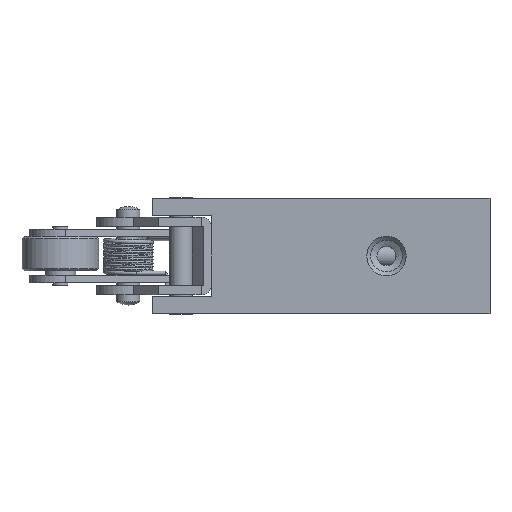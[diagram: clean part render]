
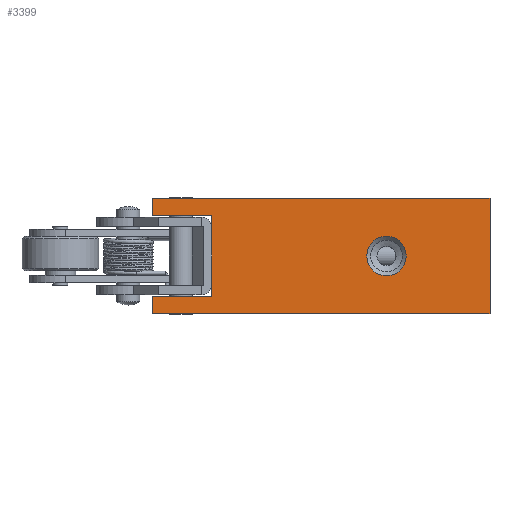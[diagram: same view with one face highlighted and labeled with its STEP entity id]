
A CAD part, front view. The second image highlights one B-rep face of the part: STEP entity #3399.
In plain terms, the highlighted planar face has unit normal (0, -1, 0).
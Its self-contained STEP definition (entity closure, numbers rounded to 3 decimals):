
#102=LINE('',#9345,#307);
#109=LINE('',#9361,#314);
#112=LINE('',#9368,#317);
#126=LINE('',#9590,#331);
#127=LINE('',#9592,#332);
#128=LINE('',#9594,#333);
#129=LINE('',#9596,#334);
#130=LINE('',#9598,#335);
#307=VECTOR('',#5197,1000.);
#314=VECTOR('',#5208,1000.);
#317=VECTOR('',#5215,1000.);
#331=VECTOR('',#5281,1000.);
#332=VECTOR('',#5282,1000.);
#333=VECTOR('',#5283,1000.);
#334=VECTOR('',#5284,1000.);
#335=VECTOR('',#5285,1000.);
#632=PLANE('',#4667);
#1157=ORIENTED_EDGE('',*,*,#1893,.T.);
#1158=ORIENTED_EDGE('',*,*,#1846,.T.);
#1159=ORIENTED_EDGE('',*,*,#1842,.T.);
#1160=ORIENTED_EDGE('',*,*,#1834,.F.);
#1161=ORIENTED_EDGE('',*,*,#1894,.F.);
#1162=ORIENTED_EDGE('',*,*,#1895,.F.);
#1163=ORIENTED_EDGE('',*,*,#1896,.F.);
#1164=ORIENTED_EDGE('',*,*,#1897,.T.);
#1165=ORIENTED_EDGE('',*,*,#1898,.F.);
#1834=EDGE_CURVE('',#2250,#2251,#102,.T.);
#1842=EDGE_CURVE('',#2255,#2251,#109,.T.);
#1846=EDGE_CURVE('',#2259,#2255,#112,.T.);
#1893=EDGE_CURVE('',#2305,#2305,#2523,.F.);
#1894=EDGE_CURVE('',#2306,#2250,#126,.T.);
#1895=EDGE_CURVE('',#2307,#2306,#127,.T.);
#1896=EDGE_CURVE('',#2308,#2307,#128,.T.);
#1897=EDGE_CURVE('',#2308,#2309,#129,.T.);
#1898=EDGE_CURVE('',#2259,#2309,#130,.T.);
#2250=VERTEX_POINT('',#9346);
#2251=VERTEX_POINT('',#9347);
#2255=VERTEX_POINT('',#9358);
#2259=VERTEX_POINT('',#9369);
#2305=VERTEX_POINT('',#9589);
#2306=VERTEX_POINT('',#9591);
#2307=VERTEX_POINT('',#9593);
#2308=VERTEX_POINT('',#9595);
#2309=VERTEX_POINT('',#9597);
#2523=CIRCLE('',#4668,2.567);
#2749=EDGE_LOOP('',(#1157));
#2750=EDGE_LOOP('',(#1158,#1159,#1160,#1161,#1162,#1163,#1164,#1165));
#3105=FACE_BOUND('',#2749,.T.);
#3106=FACE_BOUND('',#2750,.T.);
#3399=ADVANCED_FACE('',(#3105,#3106),#632,.T.);
#4667=AXIS2_PLACEMENT_3D('',#9587,#5277,#5278);
#4668=AXIS2_PLACEMENT_3D('',#9588,#5279,#5280);
#5197=DIRECTION('',(1.,0.,0.));
#5208=DIRECTION('',(0.,0.,1.));
#5215=DIRECTION('',(1.,0.,0.));
#5277=DIRECTION('',(0.,-1.,0.));
#5278=DIRECTION('',(1.,0.,0.));
#5279=DIRECTION('',(0.,-1.,0.));
#5280=DIRECTION('',(0.,0.,-1.));
#5281=DIRECTION('',(0.,0.,1.));
#5282=DIRECTION('',(-1.,0.,0.));
#5283=DIRECTION('',(0.,0.,1.));
#5284=DIRECTION('',(-1.,0.,0.));
#5285=DIRECTION('',(0.,0.,1.));
#9345=CARTESIAN_POINT('',(-44.,-12.5,7.5));
#9346=CARTESIAN_POINT('',(-44.,-12.5,7.5));
#9347=CARTESIAN_POINT('',(0.,-12.5,7.5));
#9358=CARTESIAN_POINT('',(0.,-12.5,-7.5));
#9361=CARTESIAN_POINT('',(0.,-12.5,-7.5));
#9368=CARTESIAN_POINT('',(-44.,-12.5,-7.5));
#9369=CARTESIAN_POINT('',(-44.,-12.5,-7.5));
#9587=CARTESIAN_POINT('',(-44.,-12.5,-7.5));
#9588=CARTESIAN_POINT('',(-13.5,-12.5,0.));
#9589=CARTESIAN_POINT('',(-13.5,-12.5,-2.567));
#9590=CARTESIAN_POINT('',(-44.,-12.5,5.25));
#9591=CARTESIAN_POINT('',(-44.,-12.5,5.25));
#9592=CARTESIAN_POINT('',(-35.2,-12.5,5.25));
#9593=CARTESIAN_POINT('',(-36.297,-12.5,5.25));
#9594=CARTESIAN_POINT('',(-36.297,-12.5,-5.25));
#9595=CARTESIAN_POINT('',(-36.297,-12.5,-5.25));
#9596=CARTESIAN_POINT('',(-35.2,-12.5,-5.25));
#9597=CARTESIAN_POINT('',(-44.,-12.5,-5.25));
#9598=CARTESIAN_POINT('',(-44.,-12.5,-7.5));
